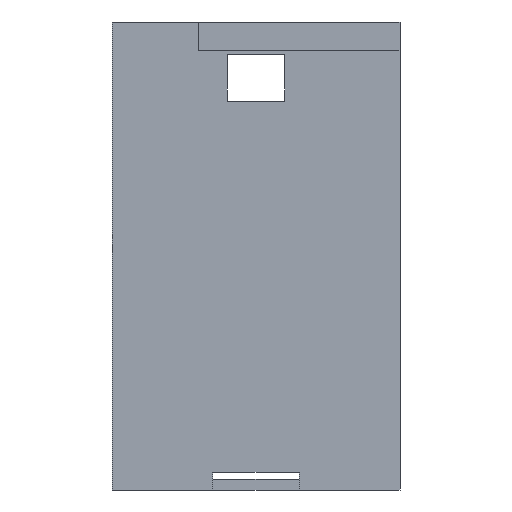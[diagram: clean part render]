
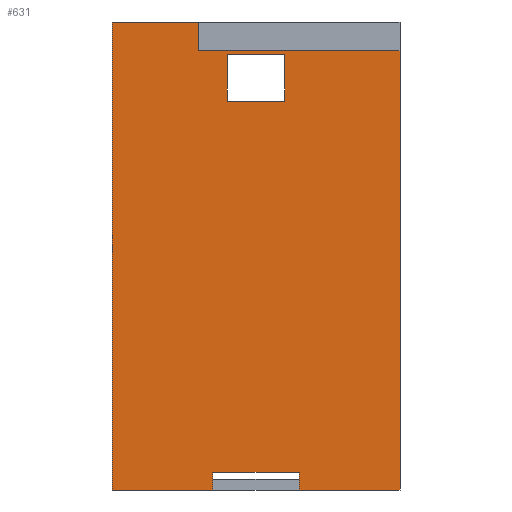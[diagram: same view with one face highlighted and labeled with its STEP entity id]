
A CAD part, front view. The second image highlights one B-rep face of the part: STEP entity #631.
In plain terms, the highlighted planar face has unit normal (0, -1, 0).
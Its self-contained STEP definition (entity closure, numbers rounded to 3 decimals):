
#596 = VERTEX_POINT('',#597);
#597 = CARTESIAN_POINT('',(12.,-52.,196.));
#603 = EDGE_CURVE('',#596,#604,#606,.T.);
#604 = VERTEX_POINT('',#605);
#605 = CARTESIAN_POINT('',(12.,-52.,191.));
#606 = LINE('',#607,#608);
#607 = CARTESIAN_POINT('',(12.,-52.,190.5));
#608 = VECTOR('',#609,1.);
#609 = DIRECTION('',(-0.,0.,-1.));
#631 = ADVANCED_FACE('',(#632,#705),#739,.F.);
#632 = FACE_BOUND('',#633,.F.);
#633 = EDGE_LOOP('',(#634,#644,#650,#651,#659,#667,#675,#683,#691,#699)
  );
#634 = ORIENTED_EDGE('',*,*,#635,.F.);
#635 = EDGE_CURVE('',#636,#638,#640,.T.);
#636 = VERTEX_POINT('',#637);
#637 = CARTESIAN_POINT('',(40.,-52.,191.));
#638 = VERTEX_POINT('',#639);
#639 = CARTESIAN_POINT('',(40.,-52.,313.));
#640 = LINE('',#641,#642);
#641 = CARTESIAN_POINT('',(40.,-52.,191.));
#642 = VECTOR('',#643,1.);
#643 = DIRECTION('',(0.,0.,1.));
#644 = ORIENTED_EDGE('',*,*,#645,.F.);
#645 = EDGE_CURVE('',#604,#636,#646,.T.);
#646 = LINE('',#647,#648);
#647 = CARTESIAN_POINT('',(-40.,-52.,191.));
#648 = VECTOR('',#649,1.);
#649 = DIRECTION('',(1.,0.,-0.));
#650 = ORIENTED_EDGE('',*,*,#603,.F.);
#651 = ORIENTED_EDGE('',*,*,#652,.F.);
#652 = EDGE_CURVE('',#653,#596,#655,.T.);
#653 = VERTEX_POINT('',#654);
#654 = CARTESIAN_POINT('',(-12.,-52.,196.));
#655 = LINE('',#656,#657);
#656 = CARTESIAN_POINT('',(-26.,-52.,196.));
#657 = VECTOR('',#658,1.);
#658 = DIRECTION('',(1.,0.,-0.));
#659 = ORIENTED_EDGE('',*,*,#660,.T.);
#660 = EDGE_CURVE('',#653,#661,#663,.T.);
#661 = VERTEX_POINT('',#662);
#662 = CARTESIAN_POINT('',(-12.,-52.,191.));
#663 = LINE('',#664,#665);
#664 = CARTESIAN_POINT('',(-12.,-52.,190.5));
#665 = VECTOR('',#666,1.);
#666 = DIRECTION('',(-0.,0.,-1.));
#667 = ORIENTED_EDGE('',*,*,#668,.F.);
#668 = EDGE_CURVE('',#669,#661,#671,.T.);
#669 = VERTEX_POINT('',#670);
#670 = CARTESIAN_POINT('',(-40.,-52.,191.));
#671 = LINE('',#672,#673);
#672 = CARTESIAN_POINT('',(-40.,-52.,191.));
#673 = VECTOR('',#674,1.);
#674 = DIRECTION('',(1.,0.,-0.));
#675 = ORIENTED_EDGE('',*,*,#676,.T.);
#676 = EDGE_CURVE('',#669,#677,#679,.T.);
#677 = VERTEX_POINT('',#678);
#678 = CARTESIAN_POINT('',(-40.,-52.,321.));
#679 = LINE('',#680,#681);
#680 = CARTESIAN_POINT('',(-40.,-52.,191.));
#681 = VECTOR('',#682,1.);
#682 = DIRECTION('',(0.,0.,1.));
#683 = ORIENTED_EDGE('',*,*,#684,.T.);
#684 = EDGE_CURVE('',#677,#685,#687,.T.);
#685 = VERTEX_POINT('',#686);
#686 = CARTESIAN_POINT('',(-16.,-52.,321.));
#687 = LINE('',#688,#689);
#688 = CARTESIAN_POINT('',(-40.,-52.,321.));
#689 = VECTOR('',#690,1.);
#690 = DIRECTION('',(1.,0.,-0.));
#691 = ORIENTED_EDGE('',*,*,#692,.F.);
#692 = EDGE_CURVE('',#693,#685,#695,.T.);
#693 = VERTEX_POINT('',#694);
#694 = CARTESIAN_POINT('',(-16.,-52.,313.));
#695 = LINE('',#696,#697);
#696 = CARTESIAN_POINT('',(-16.,-52.,313.));
#697 = VECTOR('',#698,1.);
#698 = DIRECTION('',(0.,0.,1.));
#699 = ORIENTED_EDGE('',*,*,#700,.T.);
#700 = EDGE_CURVE('',#693,#638,#701,.T.);
#701 = LINE('',#702,#703);
#702 = CARTESIAN_POINT('',(-16.,-52.,313.));
#703 = VECTOR('',#704,1.);
#704 = DIRECTION('',(1.,0.,-0.));
#705 = FACE_BOUND('',#706,.F.);
#706 = EDGE_LOOP('',(#707,#717,#725,#733));
#707 = ORIENTED_EDGE('',*,*,#708,.F.);
#708 = EDGE_CURVE('',#709,#711,#713,.T.);
#709 = VERTEX_POINT('',#710);
#710 = CARTESIAN_POINT('',(-8.,-52.,312.));
#711 = VERTEX_POINT('',#712);
#712 = CARTESIAN_POINT('',(8.,-52.,312.));
#713 = LINE('',#714,#715);
#714 = CARTESIAN_POINT('',(-24.,-52.,312.));
#715 = VECTOR('',#716,1.);
#716 = DIRECTION('',(1.,0.,-0.));
#717 = ORIENTED_EDGE('',*,*,#718,.T.);
#718 = EDGE_CURVE('',#709,#719,#721,.T.);
#719 = VERTEX_POINT('',#720);
#720 = CARTESIAN_POINT('',(-8.,-52.,299.));
#721 = LINE('',#722,#723);
#722 = CARTESIAN_POINT('',(-8.,-52.,245.));
#723 = VECTOR('',#724,1.);
#724 = DIRECTION('',(-0.,0.,-1.));
#725 = ORIENTED_EDGE('',*,*,#726,.T.);
#726 = EDGE_CURVE('',#719,#727,#729,.T.);
#727 = VERTEX_POINT('',#728);
#728 = CARTESIAN_POINT('',(8.,-52.,299.));
#729 = LINE('',#730,#731);
#730 = CARTESIAN_POINT('',(-24.,-52.,299.));
#731 = VECTOR('',#732,1.);
#732 = DIRECTION('',(1.,0.,-0.));
#733 = ORIENTED_EDGE('',*,*,#734,.F.);
#734 = EDGE_CURVE('',#711,#727,#735,.T.);
#735 = LINE('',#736,#737);
#736 = CARTESIAN_POINT('',(8.,-52.,245.));
#737 = VECTOR('',#738,1.);
#738 = DIRECTION('',(-0.,0.,-1.));
#739 = PLANE('',#740);
#740 = AXIS2_PLACEMENT_3D('',#741,#742,#743);
#741 = CARTESIAN_POINT('',(-40.,-52.,191.));
#742 = DIRECTION('',(-0.,1.,0.));
#743 = DIRECTION('',(0.,0.,1.));
